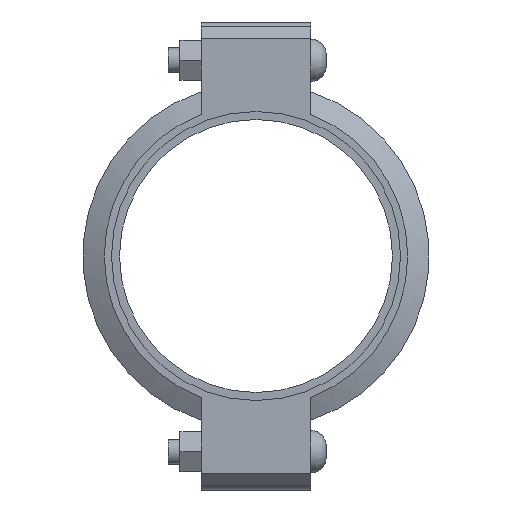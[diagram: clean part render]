
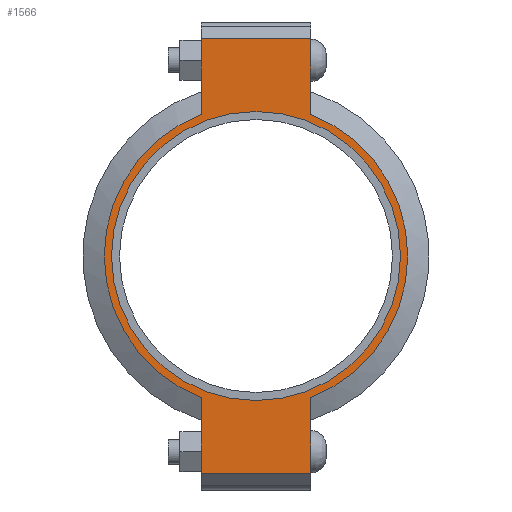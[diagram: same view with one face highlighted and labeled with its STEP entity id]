
A CAD part, left-side view. The second image highlights one B-rep face of the part: STEP entity #1566.
In plain terms, the highlighted planar face has unit normal (-1, 0, 0) as drawn and (0, 0, 1) by its records, which use the part's own axes.
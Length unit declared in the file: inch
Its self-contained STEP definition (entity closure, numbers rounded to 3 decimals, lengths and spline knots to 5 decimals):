
#190=LINE('',#2733,#283);
#198=LINE('',#2769,#291);
#205=LINE('',#2790,#298);
#214=LINE('',#2822,#307);
#215=LINE('',#2826,#308);
#216=LINE('',#2828,#309);
#283=VECTOR('',#2225,0.3937);
#291=VECTOR('',#2241,0.3937);
#298=VECTOR('',#2260,0.3937);
#307=VECTOR('',#2285,0.3937);
#308=VECTOR('',#2290,0.3937);
#309=VECTOR('',#2291,0.3937);
#365=FACE_BOUND('',#543,.T.);
#437=FACE_OUTER_BOUND('',#542,.T.);
#542=EDGE_LOOP('',(#1307,#1308,#1309,#1310,#1311,#1312,#1313,#1314));
#543=EDGE_LOOP('',(#1315));
#615=CIRCLE('',#1785,4.3125);
#641=CIRCLE('',#1844,4.53);
#642=CIRCLE('',#1845,4.53);
#707=VERTEX_POINT('',#2549);
#750=VERTEX_POINT('',#2730);
#751=VERTEX_POINT('',#2732);
#762=VERTEX_POINT('',#2764);
#763=VERTEX_POINT('',#2768);
#770=VERTEX_POINT('',#2787);
#771=VERTEX_POINT('',#2789);
#781=VERTEX_POINT('',#2825);
#782=VERTEX_POINT('',#2827);
#863=EDGE_CURVE('',#707,#707,#615,.T.);
#924=EDGE_CURVE('',#751,#750,#190,.T.);
#938=EDGE_CURVE('',#763,#762,#198,.T.);
#948=EDGE_CURVE('',#771,#770,#205,.T.);
#963=EDGE_CURVE('',#763,#750,#214,.T.);
#964=EDGE_CURVE('',#762,#771,#641,.T.);
#965=EDGE_CURVE('',#781,#770,#215,.T.);
#966=EDGE_CURVE('',#781,#782,#216,.T.);
#967=EDGE_CURVE('',#782,#751,#642,.T.);
#1307=ORIENTED_EDGE('',*,*,#963,.F.);
#1308=ORIENTED_EDGE('',*,*,#938,.T.);
#1309=ORIENTED_EDGE('',*,*,#964,.T.);
#1310=ORIENTED_EDGE('',*,*,#948,.T.);
#1311=ORIENTED_EDGE('',*,*,#965,.F.);
#1312=ORIENTED_EDGE('',*,*,#966,.T.);
#1313=ORIENTED_EDGE('',*,*,#967,.T.);
#1314=ORIENTED_EDGE('',*,*,#924,.T.);
#1315=ORIENTED_EDGE('',*,*,#863,.T.);
#1408=PLANE('',#1843);
#1566=ADVANCED_FACE('',(#437,#365),#1408,.T.);
#1785=AXIS2_PLACEMENT_3D('',#2551,#2101,#2102);
#1843=AXIS2_PLACEMENT_3D('',#2823,#2286,#2287);
#1844=AXIS2_PLACEMENT_3D('',#2824,#2288,#2289);
#1845=AXIS2_PLACEMENT_3D('',#2829,#2292,#2293);
#2101=DIRECTION('center_axis',(0.,0.,-1.));
#2102=DIRECTION('ref_axis',(-1.,0.,0.));
#2225=DIRECTION('',(-1.,0.,0.));
#2241=DIRECTION('',(1.,0.,0.));
#2260=DIRECTION('',(1.,0.,0.));
#2285=DIRECTION('',(0.,1.,0.));
#2286=DIRECTION('center_axis',(0.,0.,1.));
#2287=DIRECTION('ref_axis',(1.,0.,0.));
#2288=DIRECTION('center_axis',(0.,0.,1.));
#2289=DIRECTION('ref_axis',(-1.,0.,0.));
#2290=DIRECTION('',(0.,-1.,0.));
#2291=DIRECTION('',(-1.,0.,0.));
#2292=DIRECTION('center_axis',(0.,0.,1.));
#2293=DIRECTION('ref_axis',(-1.,0.,0.));
#2549=CARTESIAN_POINT('',(4.3125,0.,1.16));
#2551=CARTESIAN_POINT('Origin',(0.,0.,1.16));
#2730=CARTESIAN_POINT('',(-6.485,1.63,1.16));
#2732=CARTESIAN_POINT('',(-4.22658,1.63,1.16));
#2733=CARTESIAN_POINT('',(-6.985,1.63,1.16));
#2764=CARTESIAN_POINT('',(-4.22658,-1.63,1.16));
#2768=CARTESIAN_POINT('',(-6.485,-1.63,1.16));
#2769=CARTESIAN_POINT('',(6.985,-1.63,1.16));
#2787=CARTESIAN_POINT('',(6.485,-1.63,1.16));
#2789=CARTESIAN_POINT('',(4.22658,-1.63,1.16));
#2790=CARTESIAN_POINT('',(6.985,-1.63,1.16));
#2822=CARTESIAN_POINT('',(-6.485,0.815,1.16));
#2823=CARTESIAN_POINT('Origin',(0.,0.,
1.16));
#2824=CARTESIAN_POINT('Origin',(0.,0.,1.16));
#2825=CARTESIAN_POINT('',(6.485,1.63,1.16));
#2826=CARTESIAN_POINT('',(6.485,-0.815,1.16));
#2827=CARTESIAN_POINT('',(4.22658,1.63,1.16));
#2828=CARTESIAN_POINT('',(-6.985,1.63,1.16));
#2829=CARTESIAN_POINT('Origin',(0.,0.,1.16));
